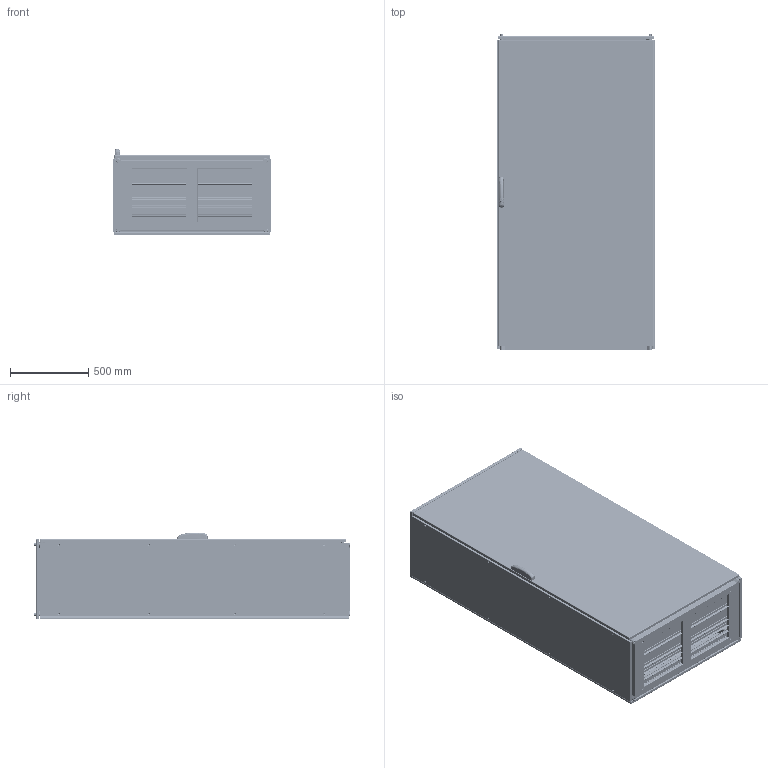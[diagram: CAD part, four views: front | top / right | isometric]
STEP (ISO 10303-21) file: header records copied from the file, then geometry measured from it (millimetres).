
FILE_DESCRIPTION (( 'STEP AP203' ), '1' );
FILE_NAME ('ENUX-102005PRX.STEP', '2021-03-16T12:36:08', ( '' ), ( '' ), 'SwSTEP 2.0', 'SolidWorks 2019', '' );
FILE_SCHEMA (( 'CONFIG_CONTROL_DESIGN' ));
Length unit declared in the file: millimetre
Products named in the file (13): AR_ENUX_Inox_Fianco_0500x2000_DX; AR_ENUX_Inox_Tegolino_1000x0050; AR_ENUX_Inox_Struttura_1000x2000x0500; AR_ENUX_Inox_Tegolino_1000x0100; AR_ENUX_Inox_Retro_singolo_1000x2000; AR_ENUX_nuova_maniglia_mesan; AR_ENUX_Inox_Rosetta_13x24x2.5_inox; ENUX-102005PRX; AR_ENUX_Inox_Vite_tetto_inox; AR_ENUX_Inox_Porta_singola_2.0_1000x2000_ANT; AR_ENUX_Inox_montaggio_porta_singlola_2.0_1000x2000_ANT_DX; AR_ENUX_Inox_Tetto_1000x0500; AR_ENUX_Inox_Fianco_0500x2000_SX
Assembly tree (24 placements, depth 3):
  ENUX-102005PRX
    AR_ENUX_Inox_Struttura_1000x2000x0500
    AR_ENUX_Inox_Retro_singolo_1000x2000
    AR_ENUX_Inox_montaggio_porta_singlola_2.0_1000x2000_ANT_DX
      AR_ENUX_Inox_Porta_singola_2.0_1000x2000_ANT
      AR_ENUX_nuova_maniglia_mesan
    AR_ENUX_Inox_Fianco_0500x2000_SX
    AR_ENUX_Inox_Fianco_0500x2000_DX
    AR_ENUX_Inox_Tetto_1000x0500
    AR_ENUX_Inox_Vite_tetto_inox  x4
    AR_ENUX_Inox_Rosetta_13x24x2.5_inox  x4
    AR_ENUX_Inox_Tegolino_1000x0050  x4
    AR_ENUX_Inox_Tegolino_1000x0100  x4
Bounding box: 1012 x 2023 x 557 mm (x, y, z)
Volume: 14527406.2 mm3; surface area: 21072363.4 mm2
Topology: 23 solids, 24 shells, 9598 faces, 27030 edges, 17374 vertices
Faces by surface type: plane 5279, cylinder 3399, bspline 365, torus 275, cone 212, sphere 68
Entity records: 342425 total; most frequent: CARTESIAN_POINT 93090, ORIENTED_EDGE 51646, DIRECTION 49305, EDGE_CURVE 25823, LINE 17791, VECTOR 17791, VERTEX_POINT 16786, AXIS2_PLACEMENT_3D 15757
